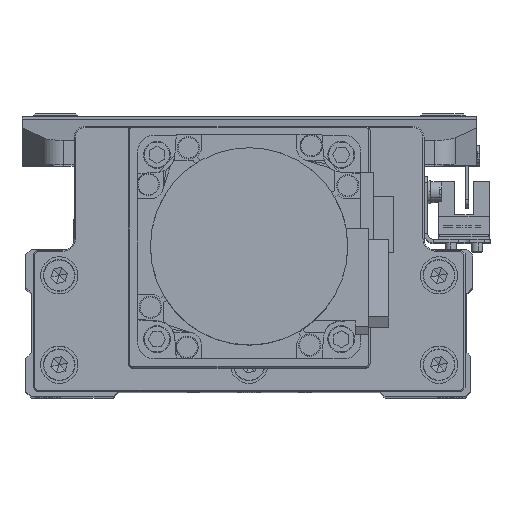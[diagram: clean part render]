
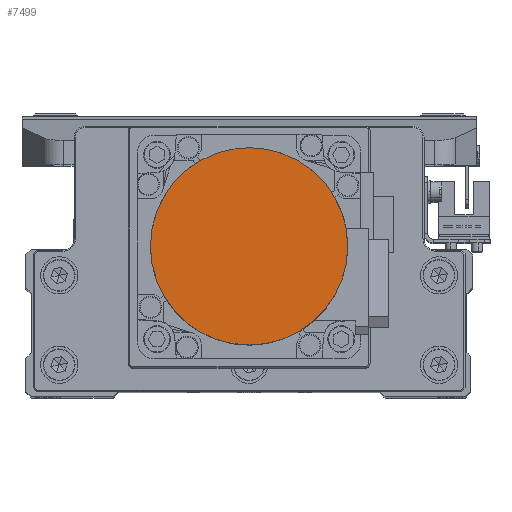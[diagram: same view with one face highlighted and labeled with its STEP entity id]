
A CAD part, top view. The second image highlights one B-rep face of the part: STEP entity #7499.
In plain terms, the highlighted planar face has unit normal (0, 0, 1) as drawn and (0, 0, -1) by its records, which use the part's own axes.
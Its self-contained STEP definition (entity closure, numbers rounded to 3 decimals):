
#2226 = DIRECTION ( 'NONE',  ( -1., 0., 0. ) ) ;
#5404 = EDGE_CURVE ( 'NONE', #35746, #29448, #8056, .T. ) ;
#5963 = DIRECTION ( 'NONE',  ( 0., 0., 1. ) ) ;
#6955 = AXIS2_PLACEMENT_3D ( 'NONE', #33707, #5963, #18349 ) ;
#7479 = ORIENTED_EDGE ( 'NONE', *, *, #15753, .F. ) ;
#7499 = ADVANCED_FACE ( 'NONE', ( #13141 ), #25476, .F. ) ;
#8056 = CIRCLE ( 'NONE', #35855, 26.5 ) ;
#10083 = DIRECTION ( 'NONE',  ( 0., 0., 1. ) ) ;
#10354 = CARTESIAN_POINT ( 'NONE',  ( 26.5, 0., -109.7 ) ) ;
#13141 = FACE_OUTER_BOUND ( 'NONE', #22525, .T. ) ;
#15753 = EDGE_CURVE ( 'NONE', #29448, #35746, #23881, .T. ) ;
#17648 = CARTESIAN_POINT ( 'NONE',  ( 0., 0., -109.7 ) ) ;
#18349 = DIRECTION ( 'NONE',  ( 1., 0., 0. ) ) ;
#21785 = AXIS2_PLACEMENT_3D ( 'NONE', #37817, #10083, #22443 ) ;
#22443 = DIRECTION ( 'NONE',  ( 1., 0., 0. ) ) ;
#22525 = EDGE_LOOP ( 'NONE', ( #35779, #7479 ) ) ;
#23881 = CIRCLE ( 'NONE', #6955, 26.5 ) ;
#25476 = PLANE ( 'NONE',  #21785 ) ;
#25838 = CARTESIAN_POINT ( 'NONE',  ( -26.5, 0., -109.7 ) ) ;
#29448 = VERTEX_POINT ( 'NONE', #10354 ) ;
#29987 = DIRECTION ( 'NONE',  ( 0., 0., 1. ) ) ;
#33707 = CARTESIAN_POINT ( 'NONE',  ( 0., 0., -109.7 ) ) ;
#35746 = VERTEX_POINT ( 'NONE', #25838 ) ;
#35779 = ORIENTED_EDGE ( 'NONE', *, *, #5404, .F. ) ;
#35855 = AXIS2_PLACEMENT_3D ( 'NONE', #17648, #29987, #2226 ) ;
#37817 = CARTESIAN_POINT ( 'NONE',  ( 0., 0., -109.7 ) ) ;
